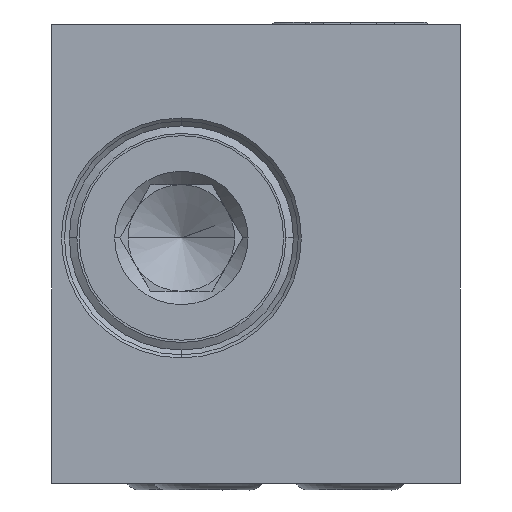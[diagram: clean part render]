
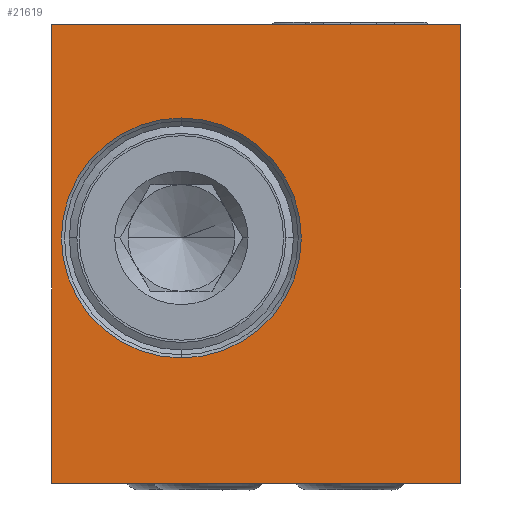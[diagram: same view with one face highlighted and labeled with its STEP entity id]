
A CAD part, left-side view. The second image highlights one B-rep face of the part: STEP entity #21619.
In plain terms, the highlighted planar face has unit normal (-1, 0, 0).
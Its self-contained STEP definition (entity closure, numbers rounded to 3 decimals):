
#3961=DIRECTION('',(0.,0.,1.));
#3962=VECTOR('',#3961,25.8);
#3963=CARTESIAN_POINT('',(-38.,11.5,-12.9));
#3964=LINE('',#3963,#3962);
#3965=DIRECTION('',(0.,-1.,0.));
#3966=VECTOR('',#3965,23.);
#3967=CARTESIAN_POINT('',(-38.,11.5,12.9));
#3968=LINE('',#3967,#3966);
#3969=DIRECTION('',(0.,0.,-1.));
#3970=VECTOR('',#3969,25.8);
#3971=CARTESIAN_POINT('',(-38.,-11.5,12.9));
#3972=LINE('',#3971,#3970);
#3973=DIRECTION('',(0.,1.,0.));
#3974=VECTOR('',#3973,23.);
#3975=CARTESIAN_POINT('',(-38.,-11.5,-12.9));
#3976=LINE('',#3975,#3974);
#3977=CARTESIAN_POINT('',(-38.,4.2,0.9));
#3978=DIRECTION('',(-1.,0.,0.));
#3979=DIRECTION('',(0.,0.,-1.));
#3980=AXIS2_PLACEMENT_3D('',#3977,#3978,#3979);
#3982=CARTESIAN_POINT('',(-38.,4.2,0.9));
#3983=DIRECTION('',(-1.,0.,0.));
#3984=DIRECTION('',(0.,0.,1.));
#3985=AXIS2_PLACEMENT_3D('',#3982,#3983,#3984);
#14779=CARTESIAN_POINT('',(-38.,11.5,12.9));
#14780=VERTEX_POINT('',#14779);
#14781=CARTESIAN_POINT('',(-38.,11.5,-12.9));
#14782=VERTEX_POINT('',#14781);
#14783=CARTESIAN_POINT('',(-38.,-11.5,12.9));
#14784=VERTEX_POINT('',#14783);
#14805=CARTESIAN_POINT('',(-38.,-11.5,-12.9));
#14806=VERTEX_POINT('',#14805);
#14851=CARTESIAN_POINT('',(-38.,4.2,-5.85));
#14852=CARTESIAN_POINT('',(-38.,4.2,7.65));
#14853=VERTEX_POINT('',#14851);
#14854=VERTEX_POINT('',#14852);
#21600=CARTESIAN_POINT('',(-38.,0.,0.));
#21601=DIRECTION('',(-1.,0.,0.));
#21602=DIRECTION('',(0.,-1.,0.));
#21603=AXIS2_PLACEMENT_3D('',#21600,#21601,#21602);
#21604=PLANE('',#21603);
#21605=ORIENTED_EDGE('',*,*,#21593,.T.);
#21606=ORIENTED_EDGE('',*,*,#19365,.T.);
#21608=ORIENTED_EDGE('',*,*,#21607,.T.);
#21610=ORIENTED_EDGE('',*,*,#21609,.T.);
#21611=EDGE_LOOP('',(#21605,#21606,#21608,#21610));
#21612=FACE_OUTER_BOUND('',#21611,.F.);
#21614=ORIENTED_EDGE('',*,*,#21613,.T.);
#21616=ORIENTED_EDGE('',*,*,#21615,.T.);
#21617=EDGE_LOOP('',(#21614,#21616));
#21618=FACE_BOUND('',#21617,.F.);
#21619=ADVANCED_FACE('',(#21612,#21618),#21604,.T.);
#3981=CIRCLE('',#3980,6.75);
#3986=CIRCLE('',#3985,6.75);
#19365=EDGE_CURVE('',#14780,#14784,#3968,.T.);
#21593=EDGE_CURVE('',#14782,#14780,#3964,.T.);
#21607=EDGE_CURVE('',#14784,#14806,#3972,.T.);
#21609=EDGE_CURVE('',#14806,#14782,#3976,.T.);
#21613=EDGE_CURVE('',#14853,#14854,#3981,.T.);
#21615=EDGE_CURVE('',#14854,#14853,#3986,.T.);
